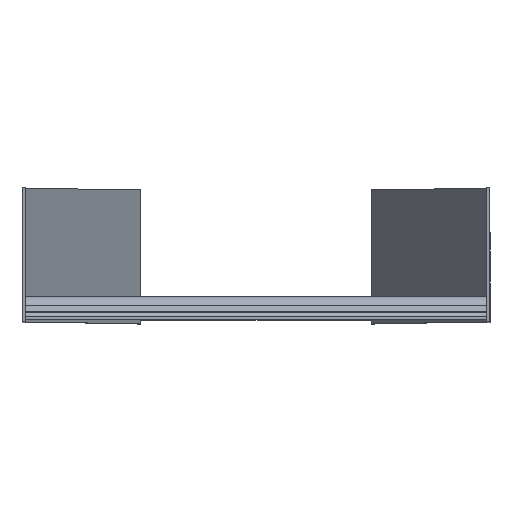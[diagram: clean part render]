
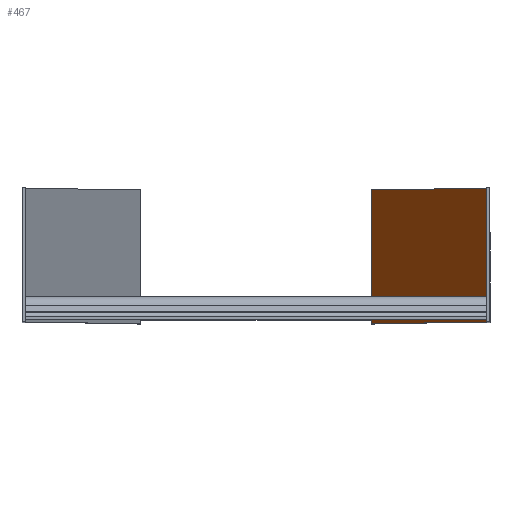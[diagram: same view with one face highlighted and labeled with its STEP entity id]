
A CAD part, top view. The second image highlights one B-rep face of the part: STEP entity #467.
In plain terms, the highlighted planar face has unit normal (-0.966, 0, 0.259).
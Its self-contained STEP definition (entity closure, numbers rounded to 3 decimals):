
#57 = LINE ( 'NONE', #3422, #4236 ) ;
#58 = EDGE_CURVE ( 'NONE', #988, #5432, #1124, .T. ) ;
#365 = AXIS2_PLACEMENT_3D ( 'NONE', #3225, #5167, #5300 ) ;
#467 = ADVANCED_FACE ( 'NONE', ( #3193 ), #2244, .T. ) ;
#663 = LINE ( 'NONE', #6057, #2284 ) ;
#988 = VERTEX_POINT ( 'NONE', #3107 ) ;
#1124 = LINE ( 'NONE', #3022, #3931 ) ;
#1239 = ORIENTED_EDGE ( 'NONE', *, *, #58, .T. ) ;
#1410 = EDGE_CURVE ( 'NONE', #988, #4743, #663, .T. ) ;
#1527 = ORIENTED_EDGE ( 'NONE', *, *, #5203, .T. ) ;
#1703 = DIRECTION ( 'NONE',  ( -0.259, 0., -0.966 ) ) ;
#2063 = DIRECTION ( 'NONE',  ( 0., 1., 0. ) ) ;
#2244 = PLANE ( 'NONE',  #365 ) ;
#2284 = VECTOR ( 'NONE', #1703, 1000. ) ;
#2302 = VERTEX_POINT ( 'NONE', #3770 ) ;
#2898 = ORIENTED_EDGE ( 'NONE', *, *, #1410, .F. ) ;
#2961 = CARTESIAN_POINT ( 'NONE',  ( 75.119, 0., -279.555 ) ) ;
#3022 = CARTESIAN_POINT ( 'NONE',  ( 149.949, 0., -0.191 ) ) ;
#3107 = CARTESIAN_POINT ( 'NONE',  ( 149.949, 0., -0.191 ) ) ;
#3193 = FACE_OUTER_BOUND ( 'NONE', #3558, .T. ) ;
#3225 = CARTESIAN_POINT ( 'NONE',  ( 150., 87., 0. ) ) ;
#3422 = CARTESIAN_POINT ( 'NONE',  ( 150., 87., 0. ) ) ;
#3558 = EDGE_LOOP ( 'NONE', ( #5956, #2898, #1239, #1527 ) ) ;
#3770 = CARTESIAN_POINT ( 'NONE',  ( 75.119, 87., -279.555 ) ) ;
#3930 = DIRECTION ( 'NONE',  ( -0.259, 0., -0.966 ) ) ;
#3931 = VECTOR ( 'NONE', #2063, 1000. ) ;
#4236 = VECTOR ( 'NONE', #3930, 1000. ) ;
#4426 = VECTOR ( 'NONE', #4666, 1000. ) ;
#4666 = DIRECTION ( 'NONE',  ( 0., 1., 0. ) ) ;
#4743 = VERTEX_POINT ( 'NONE', #2961 ) ;
#4756 = CARTESIAN_POINT ( 'NONE',  ( 149.949, 87., -0.191 ) ) ;
#5143 = LINE ( 'NONE', #6034, #4426 ) ;
#5167 = DIRECTION ( 'NONE',  ( -0.966, 0., 0.259 ) ) ;
#5203 = EDGE_CURVE ( 'NONE', #5432, #2302, #57, .T. ) ;
#5254 = EDGE_CURVE ( 'NONE', #4743, #2302, #5143, .T. ) ;
#5300 = DIRECTION ( 'NONE',  ( 0.259, 0., 0.966 ) ) ;
#5432 = VERTEX_POINT ( 'NONE', #4756 ) ;
#5956 = ORIENTED_EDGE ( 'NONE', *, *, #5254, .F. ) ;
#6034 = CARTESIAN_POINT ( 'NONE',  ( 75.119, 0., -279.555 ) ) ;
#6057 = CARTESIAN_POINT ( 'NONE',  ( 150., 0., 0. ) ) ;
